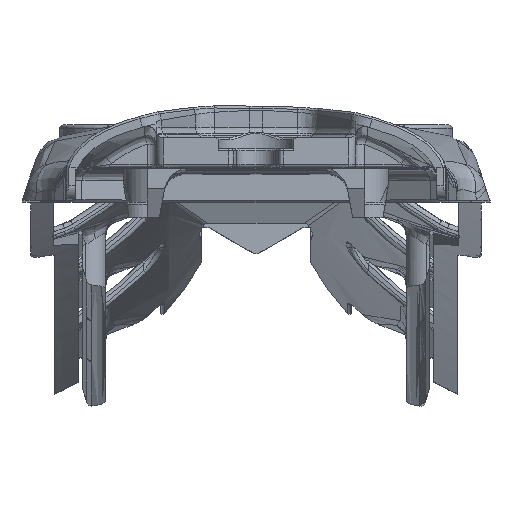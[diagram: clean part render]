
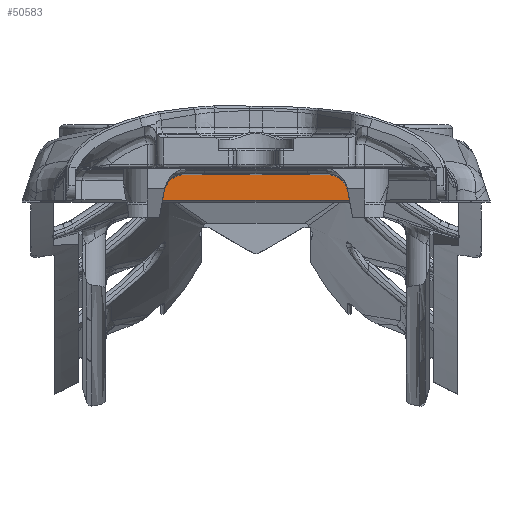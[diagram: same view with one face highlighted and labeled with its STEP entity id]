
A CAD part, top view. The second image highlights one B-rep face of the part: STEP entity #50583.
In plain terms, the highlighted planar face has unit normal (0, 0, 1).
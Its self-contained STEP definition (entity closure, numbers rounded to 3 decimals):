
#10510=DIRECTION('',(0.,1.,0.));
#10511=VECTOR('',#10510,2.71);
#10512=CARTESIAN_POINT('',(8.43,32.29,
-8.291));
#10513=LINE('',#10512,#10511);
#10514=DIRECTION('',(1.,0.,0.));
#10515=VECTOR('',#10514,16.86);
#10516=CARTESIAN_POINT('',(-8.43,32.29,
-8.291));
#10517=LINE('',#10516,#10515);
#10518=DIRECTION('',(0.,1.,0.));
#10519=VECTOR('',#10518,2.71);
#10520=CARTESIAN_POINT('',(-8.43,32.29,
-8.291));
#10521=LINE('',#10520,#10519);
#12550=DIRECTION('',(1.,0.,0.));
#12551=VECTOR('',#12550,16.86);
#12552=CARTESIAN_POINT('',(-8.43,35.,-8.291));
#12553=LINE('',#12552,#12551);
#27750=CARTESIAN_POINT('',(-8.43,35.,-8.291));
#27751=CARTESIAN_POINT('',(8.43,35.,-8.291));
#27752=VERTEX_POINT('',#27750);
#27753=VERTEX_POINT('',#27751);
#27903=CARTESIAN_POINT('',(8.43,32.29,
-8.291));
#27904=VERTEX_POINT('',#27903);
#27907=CARTESIAN_POINT('',(-8.43,32.29,
-8.291));
#27908=VERTEX_POINT('',#27907);
#50570=CARTESIAN_POINT('',(-8.43,32.09,-8.291));
#50571=DIRECTION('',(0.,0.,-1.));
#50572=DIRECTION('',(1.,0.,0.));
#50573=AXIS2_PLACEMENT_3D('',#50570,#50571,#50572);
#50574=PLANE('',#50573);
#50576=ORIENTED_EDGE('',*,*,#50575,.F.);
#50577=ORIENTED_EDGE('',*,*,#49555,.T.);
#50579=ORIENTED_EDGE('',*,*,#50578,.T.);
#50580=ORIENTED_EDGE('',*,*,#50560,.F.);
#50581=EDGE_LOOP('',(#50576,#50577,#50579,#50580));
#50582=FACE_OUTER_BOUND('',#50581,.F.);
#50583=ADVANCED_FACE('',(#50582),#50574,.F.);
#49555=EDGE_CURVE('',#27908,#27752,#10521,.T.);
#50560=EDGE_CURVE('',#27904,#27753,#10513,.T.);
#50575=EDGE_CURVE('',#27908,#27904,#10517,.T.);
#50578=EDGE_CURVE('',#27752,#27753,#12553,.T.);
